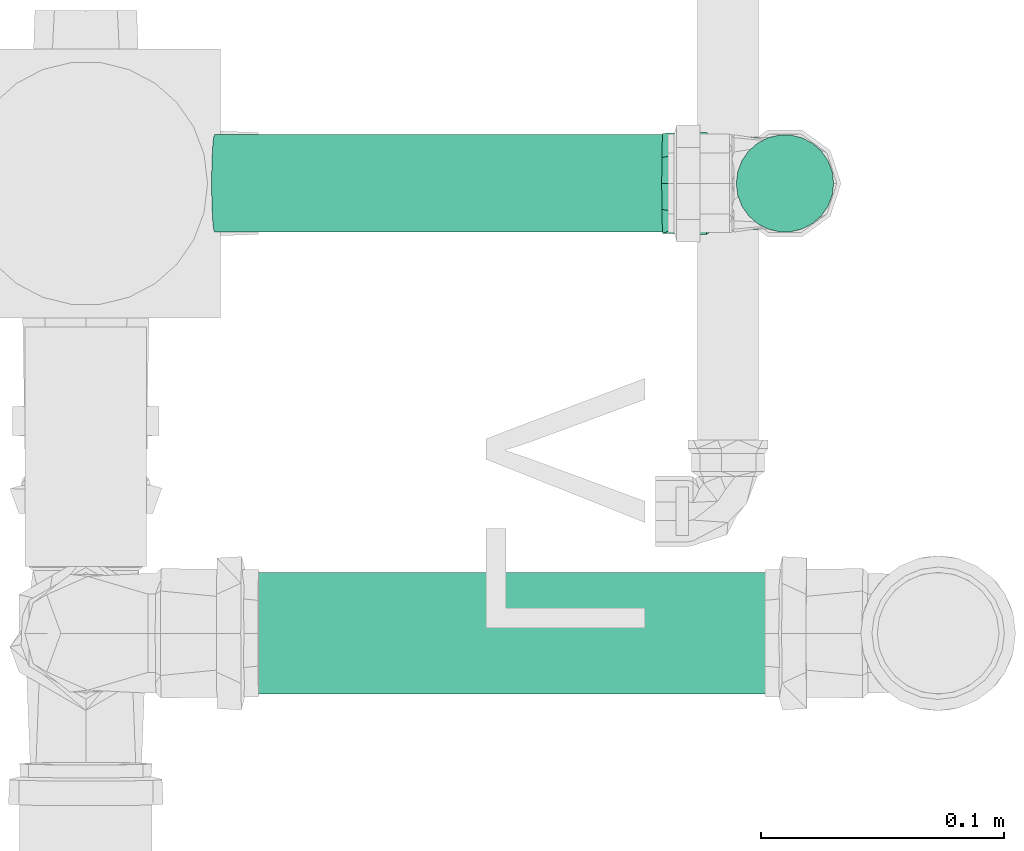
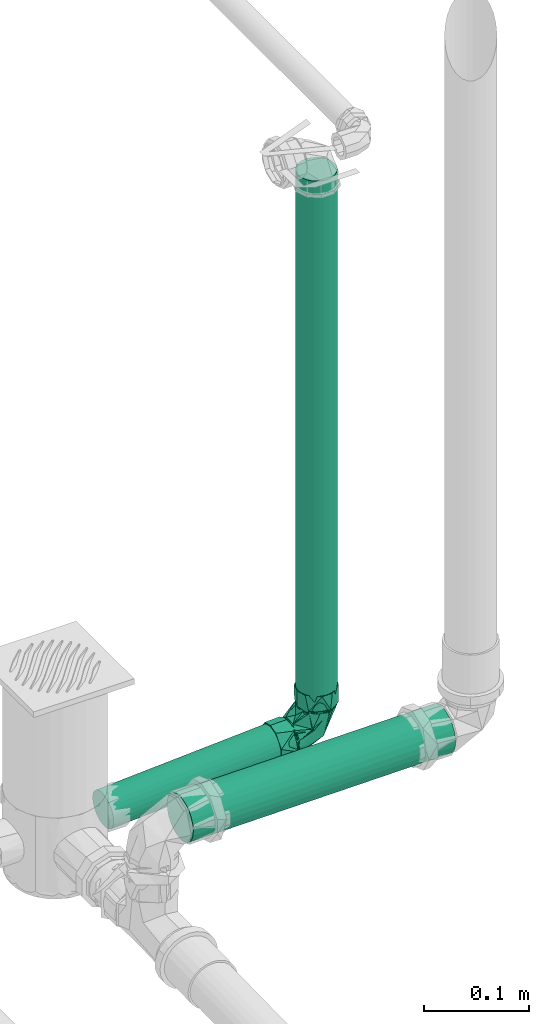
# One storey, part 139 of 589: 3 flow segments, 1 flow fitting.
"""IFC2X3 building model written with IfcOpenShell, lengths in millimetres."""

from ifc_helpers import new_model, entity, si_unit, converted_unit, derived_unit, direction, frame, frame_2d, origin, origin_2d_with_axis, place, context, subcontext, project, spatial, circle, extrude, faceted_brep, source, transform, mapped, material, type_object, type_shapes, element, save


model = new_model("IFC2X3")

# Units and contexts
model_context = context("Model", 3, precision=0.01, world=origin(), true_north=direction((6.123031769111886e-17, 1.0)))
body_context = subcontext(model_context, "Body", "Model", "MODEL_VIEW")
ifc_project = project(units=[si_unit("LENGTHUNIT", "METRE", prefix="MILLI"), si_unit("AREAUNIT", "SQUARE_METRE"), si_unit("VOLUMEUNIT", "CUBIC_METRE"), converted_unit("PLANEANGLEUNIT", "DEGREE", entity("IfcRatioMeasure", 0.017453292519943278), si_unit("PLANEANGLEUNIT", "RADIAN"), dimensions=[0, 0, 0, 0, 0, 0, 0]), si_unit("MASSUNIT", "GRAM", prefix="KILO"), derived_unit("MASSDENSITYUNIT", [(si_unit("MASSUNIT", "GRAM", prefix="KILO"), 1), (si_unit("LENGTHUNIT", "METRE"), -3)]), derived_unit("IONCONCENTRATIONUNIT", [(si_unit("MASSUNIT", "GRAM", prefix="KILO"), 1), (si_unit("LENGTHUNIT", "METRE"), -3)]), derived_unit("MOMENTOFINERTIAUNIT", [(si_unit("LENGTHUNIT", "METRE"), 4)]), si_unit("TIMEUNIT", "SECOND"), si_unit("FREQUENCYUNIT", "HERTZ"), si_unit("THERMODYNAMICTEMPERATUREUNIT", "DEGREE_CELSIUS"), derived_unit("THERMALTRANSMITTANCEUNIT", [(si_unit("MASSUNIT", "GRAM", prefix="KILO"), 1), (si_unit("THERMODYNAMICTEMPERATUREUNIT", "KELVIN"), -1), (si_unit("TIMEUNIT", "SECOND"), -3)]), derived_unit("THERMALCONDUCTANCEUNIT", [(si_unit("MASSUNIT", "GRAM", prefix="KILO"), 1), (si_unit("THERMODYNAMICTEMPERATUREUNIT", "KELVIN"), -1), (si_unit("TIMEUNIT", "SECOND"), -3), (si_unit("LENGTHUNIT", "METRE"), 1)]), derived_unit("VOLUMETRICFLOWRATEUNIT", [(si_unit("LENGTHUNIT", "METRE"), 3), (si_unit("TIMEUNIT", "SECOND"), -1)]), derived_unit("MASSFLOWRATEUNIT", [(si_unit("MASSUNIT", "GRAM", prefix="KILO"), 1), (si_unit("TIMEUNIT", "SECOND"), -1)]), derived_unit("ROTATIONALFREQUENCYUNIT", [(si_unit("TIMEUNIT", "SECOND"), -1)]), si_unit("ELECTRICCURRENTUNIT", "AMPERE"), si_unit("ELECTRICVOLTAGEUNIT", "VOLT"), si_unit("POWERUNIT", "WATT"), si_unit("FORCEUNIT", "NEWTON", prefix="KILO"), si_unit("ILLUMINANCEUNIT", "LUX"), si_unit("LUMINOUSFLUXUNIT", "LUMEN"), si_unit("LUMINOUSINTENSITYUNIT", "CANDELA"), derived_unit("USERDEFINED", [(si_unit("MASSUNIT", "GRAM", prefix="KILO"), -1), (si_unit("LENGTHUNIT", "METRE"), -2), (si_unit("TIMEUNIT", "SECOND"), 3), (si_unit("LUMINOUSFLUXUNIT", "LUMEN"), 1)]), derived_unit("USERDEFINED", [(si_unit("MASSUNIT", "GRAM", prefix="KILO"), 1), (si_unit("TIMEUNIT", "SECOND"), -3), (si_unit("LENGTHUNIT", "METRE"), 3), (si_unit("ELECTRICCURRENTUNIT", "AMPERE"), -2)]), derived_unit("SOUNDPOWERUNIT", [(si_unit("MASSUNIT", "GRAM", prefix="KILO"), 1), (si_unit("TIMEUNIT", "SECOND"), -3), (si_unit("LENGTHUNIT", "METRE"), 2)]), derived_unit("SOUNDPRESSUREUNIT", [(si_unit("MASSUNIT", "GRAM", prefix="KILO"), 1), (si_unit("LENGTHUNIT", "METRE"), -1), (si_unit("TIMEUNIT", "SECOND"), -2)]), derived_unit("LINEARVELOCITYUNIT", [(si_unit("LENGTHUNIT", "METRE"), 1), (si_unit("TIMEUNIT", "SECOND"), -1)]), si_unit("PRESSUREUNIT", "PASCAL"), derived_unit("USERDEFINED", [(si_unit("MASSUNIT", "GRAM", prefix="KILO"), 1), (si_unit("LENGTHUNIT", "METRE"), -2), (si_unit("TIMEUNIT", "SECOND"), -2)]), derived_unit("LINEARFORCEUNIT", [(si_unit("MASSUNIT", "GRAM", prefix="KILO"), 1), (si_unit("TIMEUNIT", "SECOND"), -2)]), derived_unit("PLANARFORCEUNIT", [(si_unit("MASSUNIT", "GRAM", prefix="KILO"), 1), (si_unit("LENGTHUNIT", "METRE"), -1), (si_unit("TIMEUNIT", "SECOND"), -2)]), derived_unit("SPECIFICHEATCAPACITYUNIT", [(si_unit("THERMODYNAMICTEMPERATUREUNIT", "KELVIN"), -1), (si_unit("LENGTHUNIT", "METRE"), 2), (si_unit("TIMEUNIT", "SECOND"), -2)]), derived_unit("HEATINGVALUEUNIT", [(si_unit("LENGTHUNIT", "METRE"), 2), (si_unit("TIMEUNIT", "SECOND"), -2)]), derived_unit("VAPORPERMEABILITYUNIT", [(si_unit("LENGTHUNIT", "METRE"), -1), (si_unit("TIMEUNIT", "SECOND"), 1)]), derived_unit("DYNAMICVISCOSITYUNIT", [(si_unit("MASSUNIT", "GRAM", prefix="KILO"), 1), (si_unit("TIMEUNIT", "SECOND"), -1), (si_unit("LENGTHUNIT", "METRE"), -1)]), derived_unit("THERMALEXPANSIONCOEFFICIENTUNIT", [(si_unit("THERMODYNAMICTEMPERATUREUNIT", "KELVIN"), -1)]), derived_unit("MODULUSOFELASTICITYUNIT", [(si_unit("MASSUNIT", "GRAM", prefix="KILO"), 1), (si_unit("LENGTHUNIT", "METRE"), -1), (si_unit("TIMEUNIT", "SECOND"), -2)]), derived_unit("ISOTHERMALMOISTURECAPACITYUNIT", [(si_unit("LENGTHUNIT", "METRE"), 3), (si_unit("MASSUNIT", "GRAM", prefix="KILO"), -1)]), derived_unit("MOISTUREDIFFUSIVITYUNIT", [(si_unit("TIMEUNIT", "SECOND"), -1), (si_unit("LENGTHUNIT", "METRE"), 2)])], contexts=[model_context])

# Site, building, storey
site_placement = place(None, origin())
site = spatial("IfcSite", under=ifc_project, at=site_placement, Name="Default", CompositionType="ELEMENT")
building_placement = place(site_placement, origin())
building = spatial("IfcBuilding", under=site, at=building_placement, CompositionType="ELEMENT")
storey_placement = place(building_placement, frame((0.0, 0.0, 100.0)))
storey = spatial("IfcBuildingStorey", under=building, at=storey_placement, Name="TÉRREO", CompositionType="ELEMENT", Elevation=100.0)

# Flow segments
pipe_segment_type = type_object("IfcPipeSegmentType", Name="Tipos de tubos:PVC Esgoto Série Normal", PredefinedType="NOTDEFINED")
flow_segment_1_placement = place(storey_placement, origin())
element("IfcFlowSegment", 1, at=flow_segment_1_placement, inside=storey, type_object=pipe_segment_type, Name="Tipos de tubos:PVC Esgoto Série Normal", ObjectType="Tipos de tubos:PVC Esgoto Série Normal", context=body_context, shape_type="SweptSolid", body=[
    extrude(circle(Radius=20.0, at=frame_2d((0.0, -1.68872840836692e-14), x_axis=(1.0, 0.0))), frame((9055.926170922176, -9709.27967735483, -188.50286149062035), z_axis=(0.998078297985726, 0.0, 0.06196540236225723), x_axis=(0.0, 1.0, 0.0)), (0.0, 0.0, 1.0), 202.43059250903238),
])
flow_segment_2_placement = place(storey_placement, origin())
element("IfcFlowSegment", 2, at=flow_segment_2_placement, inside=storey, type_object=pipe_segment_type, Name="Tipos de tubos:PVC Esgoto Série Normal", ObjectType="Tipos de tubos:PVC Esgoto Série Normal", context=body_context, shape_type="SweptSolid", body=[
    extrude(circle(Radius=20.0, at=origin_2d_with_axis()), frame((9290.167312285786, -9709.279677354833, -143.10917777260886)), (0.0, 0.0, 1.0), 616.3091777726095),
])
flow_segment_3_placement = place(storey_placement, origin())
element("IfcFlowSegment", 3, at=flow_segment_3_placement, inside=storey, type_object=pipe_segment_type, Name="Tipos de tubos:PVC Esgoto Série Normal", ObjectType="Tipos de tubos:PVC Esgoto Série Normal", context=body_context, shape_type="SweptSolid", body=[
    extrude(circle(Radius=25.0, at=frame_2d((0.0, -2.5378429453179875e-14), x_axis=(1.0, 0.0))), frame((9033.965923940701, -9894.030796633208, -78.4000544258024), z_axis=(0.9999500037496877, 0.0, 0.009999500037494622), x_axis=(0.0, -1.0, 0.0)), (0.0, 0.0, 1.0), 288.1941173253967),
])

# Flow fitting
ifc_material = material(Name="PVC Branco")
pipe_fitting_type = type_object("IfcPipeFittingType", Name="PVC Esgoto_Curva 90° Curta:a. Série Normal", PredefinedType="NOTDEFINED", material=ifc_material)
shared_shape = source(origin(), body_context, "Body", "Brep", [
    faceted_brep([(17.961036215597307, 31.85321923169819, 10.0), (20.63999240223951, 31.79964010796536, 0.0), (17.961036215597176, 31.853219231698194, -10.0), (5.819337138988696, 32.09605321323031, -19.318516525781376), (-4.531354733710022, 32.30306705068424, -19.31851652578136), (-16.67305381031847, 32.545901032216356, -10.0), (-19.352009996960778, 32.59948015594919, 0.0), (-16.673053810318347, 32.54590103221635, 10.0), (-4.531354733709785, 32.303067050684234, 19.318516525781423), (5.819337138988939, 32.096053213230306, 19.318516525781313), (19.378093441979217, 29.02431814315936, 6.84041311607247), (15.905813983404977, 29.093763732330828, 12.855768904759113), (20.584003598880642, 29.000199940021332, 0.0), (7.427001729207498, 29.263339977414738, 18.793865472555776), (0.5880023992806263, 29.40011996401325, 20.0), (-12.265223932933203, 29.657184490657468, 15.320851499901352), (-18.202100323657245, 29.775922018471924, 6.840381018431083), (-19.407998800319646, 29.800039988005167, 0.0), (-6.251109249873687, 29.536902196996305, 18.79382458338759), (-18.202100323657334, 29.775922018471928, -6.840381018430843), (-14.729853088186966, 29.70647707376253, -12.855716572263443), (-6.25110924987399, 29.53690219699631, -18.79382458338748), (0.588002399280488, 29.40011996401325, -20.0), (13.441163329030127, 29.143056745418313, -15.32090639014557), (19.378093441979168, 29.02431814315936, -6.8404131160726), (7.427001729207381, 29.263339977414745, -18.79386547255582), (-11.35075352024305, -12.626805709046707, 0.0), (-29.405999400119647, -18.793848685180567, 6.8404131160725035), (-29.405999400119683, -19.396924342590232, 3.420206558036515), (-29.405999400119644, -20.0, 0.0), (-29.40599940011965, -15.320874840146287, 12.855768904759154), (-29.405999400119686, -17.057361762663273, 9.848091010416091), (-2.3339581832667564, 2.3811033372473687, 18.02101843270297), (-29.40599940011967, -6.840366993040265, 18.793865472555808), (-29.405999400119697, -11.080620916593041, 15.824817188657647), (-29.405999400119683, 0.0, 20.0), (-29.40599940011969, -3.420183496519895, 19.396932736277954), (-12.878045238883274, 13.138181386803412, 18.95216884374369), (12.851249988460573, 11.095996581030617, 0.0), (5.594072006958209, -5.707072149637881, 0.0), (-29.405999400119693, 6.840479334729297, 18.79382458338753), (-29.405999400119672, 3.4202396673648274, 19.396912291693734), (-29.405999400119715, 18.793860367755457, 6.840381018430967), (-29.405999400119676, 15.824828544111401, 11.080616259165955), (-29.405999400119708, 12.855796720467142, 15.320851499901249), (-22.405985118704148, 22.858585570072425, 0.0), (-29.40599940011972, 20.0, 0.0), (-29.405999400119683, 19.396930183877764, 3.4201905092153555), (-29.405999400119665, 9.848138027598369, 17.0573380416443), (-14.138248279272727, 14.423838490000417, -18.24666465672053), (-29.405999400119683, 0.0, -20.0), (-29.40599940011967, 3.4202396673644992, -19.396912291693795), (-29.405999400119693, 6.840479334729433, -18.79382458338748), (-29.405999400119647, -18.79384868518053, -6.840413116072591), (-29.40599940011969, -15.824789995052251, -11.080659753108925), (-29.405999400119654, -12.85573130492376, -15.32090639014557), (-2.333957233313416, 2.3811024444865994, -18.021017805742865), (-29.405999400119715, 18.793860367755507, -6.840381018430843), (-29.405999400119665, 11.080699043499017, -15.824770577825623), (-29.405999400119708, 15.320918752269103, -12.855716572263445), (-29.405999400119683, -19.396924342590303, -3.420206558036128), (-29.405999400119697, -9.848049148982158, -17.0573859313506), (-29.40599940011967, -6.840366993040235, -18.79386547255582), (-29.40599940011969, -3.420183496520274, -19.396932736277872), (-29.405999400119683, 19.39693018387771, -3.4201905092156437), (-29.405999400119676, 17.05738956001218, -9.848048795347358), (-30.20599940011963, -8.21241269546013, -16.988887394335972), (-30.20599940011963, -11.248444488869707, -14.659258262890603), (-30.20599940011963, -14.28447628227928, -12.329629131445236), (-30.20599940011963, -17.320508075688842, -10.0), (-30.20599940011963, -18.66025403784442, -5.0), (-30.20599940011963, -20.0, 0.0), (-30.20599940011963, -18.660254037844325, 5.0), (-30.20599940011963, -17.320508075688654, 10.0), (-30.20599940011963, -14.284476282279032, 12.329629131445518), (-30.20599940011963, -11.248444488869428, 14.659258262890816), (-30.20599940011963, -8.21241269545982, 16.988887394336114), (-30.20599940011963, -5.1763809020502, 19.318516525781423), (-30.20599940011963, 0.0, 19.31851652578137), (-30.20599940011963, 5.176380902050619, 19.318516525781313), (-30.20599940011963, 8.21241269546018, 16.98888739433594), (-30.20599940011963, 11.248444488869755, 14.65925826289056), (-30.205999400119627, 14.284476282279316, 12.329629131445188), (-30.20599940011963, 17.320508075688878, 10.0), (-30.20599940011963, 18.66025403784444, 5.0), (-30.20599940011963, 20.0, 0.0), (-30.20599940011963, 18.66025403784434, -5.0), (-30.20599940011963, 17.32050807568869, -10.0), (-30.20599940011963, 14.284476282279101, -12.329629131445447), (-30.20599940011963, 11.24844448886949, -14.659258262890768), (-30.20599940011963, 8.212412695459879, -16.988887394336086), (-30.20599940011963, 5.1763809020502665, -19.318516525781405), (-30.20599940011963, 0.0, -19.318516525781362), (-30.20599940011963, -5.176380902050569, -19.318516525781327)], [[[0, 1, 2, 3, 4, 5, 6, 7, 8, 9]], [[10, 1, 0]], [[11, 0, 9]], [[12, 1, 10]], [[11, 10, 0]], [[13, 11, 9]], [[9, 14, 13]], [[15, 8, 7]], [[7, 6, 16]], [[17, 16, 6]], [[14, 8, 18]], [[15, 18, 8]], [[16, 15, 7]], [[8, 14, 9]], [[19, 6, 5]], [[20, 5, 4]], [[17, 6, 19]], [[20, 19, 5]], [[21, 20, 4]], [[4, 22, 21]], [[23, 3, 2]], [[2, 1, 24]], [[12, 24, 1]], [[22, 3, 25]], [[23, 25, 3]], [[24, 23, 2]], [[3, 22, 4]], [[26, 27, 28, 29]], [[26, 30, 31, 27]], [[32, 33, 34, 30]], [[32, 35, 36, 33]], [[35, 32, 37]], [[11, 38, 10]], [[26, 32, 30]], [[32, 39, 38]], [[37, 40, 41, 35]], [[37, 42, 43, 44]], [[45, 46, 47, 42]], [[16, 45, 42]], [[37, 44, 48, 40]], [[39, 32, 26]], [[14, 18, 37]], [[32, 11, 13]], [[14, 37, 32]], [[32, 38, 11]], [[12, 10, 38]], [[45, 16, 17]], [[37, 15, 16]], [[37, 16, 42]], [[15, 37, 18]], [[32, 13, 14]], [[49, 50, 51, 52]], [[49, 21, 22]], [[26, 53, 54, 55]], [[56, 39, 26]], [[49, 57, 19]], [[49, 52, 58, 59]], [[56, 50, 49]], [[26, 29, 60, 53]], [[56, 55, 61, 62]], [[56, 62, 63, 50]], [[26, 55, 56]], [[45, 57, 64, 46]], [[45, 17, 19]], [[24, 12, 38]], [[23, 56, 25]], [[49, 20, 21]], [[49, 19, 20]], [[56, 49, 22]], [[56, 23, 38]], [[49, 59, 65, 57]], [[38, 39, 56]], [[24, 38, 23]], [[56, 22, 25]], [[19, 57, 45]], [[66, 67, 68, 69, 70, 71, 72, 73, 74, 75, 76, 77, 78, 79, 80, 81, 82, 83, 84, 85, 86, 87, 88, 89, 90, 91, 92, 93]], [[47, 46, 85]], [[33, 77, 76]], [[80, 40, 48]], [[48, 44, 81]], [[33, 76, 34]], [[81, 80, 48]], [[84, 83, 42]], [[82, 81, 44]], [[73, 72, 27]], [[85, 84, 47]], [[78, 41, 79]], [[77, 36, 78]], [[30, 75, 74, 73]], [[73, 27, 31, 30]], [[77, 33, 36]], [[71, 28, 72]], [[44, 43, 82]], [[36, 35, 78]], [[41, 40, 79]], [[34, 76, 75]], [[43, 42, 83]], [[75, 30, 34]], [[41, 78, 35]], [[84, 42, 47]], [[80, 79, 40]], [[43, 83, 82]], [[28, 71, 29]], [[28, 27, 72]], [[60, 29, 71]], [[52, 91, 90]], [[66, 62, 61]], [[61, 55, 67]], [[52, 90, 58]], [[67, 66, 61]], [[70, 69, 53]], [[68, 67, 55]], [[87, 86, 57]], [[71, 70, 60]], [[92, 63, 93]], [[91, 51, 92]], [[59, 89, 88, 87]], [[87, 57, 65, 59]], [[91, 52, 51]], [[85, 64, 86]], [[55, 54, 68]], [[51, 50, 92]], [[63, 62, 93]], [[90, 89, 58]], [[54, 53, 69]], [[89, 59, 58]], [[63, 92, 50]], [[70, 53, 60]], [[66, 93, 62]], [[54, 69, 68]], [[64, 85, 46]], [[64, 57, 86]]]),
    faceted_brep([(-32.20599940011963, -17.320508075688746, -10.0), (-32.20599940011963, -20.0, 0.0), (-32.20599940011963, -17.320508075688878, 10.0), (-32.20599940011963, -5.176380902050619, 19.318516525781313), (-32.20599940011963, 5.1763809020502, 19.318516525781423), (-32.20599940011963, 17.320508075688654, 10.0), (-32.20599940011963, 20.0, 0.0), (-32.20599940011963, 17.320508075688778, -10.0), (-32.20599940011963, 5.17638090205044, -19.31851652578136), (-32.20599940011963, -5.176380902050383, -19.318516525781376), (-29.40599940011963, -20.0, 0.0), (-29.40599940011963, -15.320920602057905, 12.855714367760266), (-29.40599940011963, 3.4728419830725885, 19.696176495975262), (-29.40599940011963, 15.320777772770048, 12.855884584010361), (-29.40599940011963, 20.0, 0.0), (-29.40599940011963, 15.320777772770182, -12.855884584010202), (-29.405999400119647, 5.923858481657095, -16.27601124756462), (-29.40599940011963, -3.473060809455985, -19.69613791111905), (-29.40599940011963, -15.320920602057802, -12.855714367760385), (12.85124998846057, 11.095996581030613, 0.0), (19.378093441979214, 29.024318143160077, 6.8404131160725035), (16.409628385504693, 29.083687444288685, 11.080659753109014), (13.441163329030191, 29.143056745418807, 15.320906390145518), (5.594072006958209, -5.707072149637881, 0.0), (-3.0189256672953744, 1.4413580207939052, 17.919138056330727), (-11.350753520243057, -12.626805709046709, 0.0), (-13.807968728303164, 12.593198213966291, 18.87014454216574), (-6.251109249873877, 29.53690219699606, 18.793824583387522), (-10.490481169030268, 29.621689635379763, 15.824770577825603), (-14.729853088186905, 29.70647707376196, 12.855716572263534), (-22.405985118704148, 22.858585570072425, 0.0), (-18.20210032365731, 29.775922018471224, 6.84038101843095), (-18.805049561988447, 29.787981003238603, 3.4201905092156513), (-19.407998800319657, 29.80003998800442, 0.0), (7.427001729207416, 29.26333997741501, 18.793865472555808), (4.007502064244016, 29.331729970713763, 19.396932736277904), (0.5880023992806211, 29.400119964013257, 20.0), (10.434082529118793, 29.203198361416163, 17.057385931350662), (20.58400359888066, 29.000199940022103, 0.0), (19.981048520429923, 29.012259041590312, 3.420206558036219), (-2.8315534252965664, 29.46851108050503, 19.396912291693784), (-16.465976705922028, 29.74119954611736, 9.84804879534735), (-12.878069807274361, 13.13814230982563, -18.95217245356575), (-12.265223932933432, 29.657184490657, -15.32085149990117), (-9.258166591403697, 29.59704334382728, -17.057338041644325), (-6.251109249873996, 29.53690219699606, -18.79382458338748), (-18.202100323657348, 29.775922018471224, -6.840381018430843), (-2.142006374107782, 2.6554433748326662, -18.049846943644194), (-18.80504956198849, 29.787981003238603, -3.4201905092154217), (-15.233662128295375, 29.716553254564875, -11.080616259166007), (19.378093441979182, 29.02431814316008, -6.840413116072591), (19.981048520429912, 29.012259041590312, -3.4202065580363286), (0.5880023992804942, 29.400119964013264, -20.0), (4.0075020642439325, 29.331729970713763, -19.396932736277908), (7.427001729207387, 29.26333997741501, -18.79386547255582), (11.666407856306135, 29.178551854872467, -15.824817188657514), (15.905813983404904, 29.09376373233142, -12.855768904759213), (17.64195371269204, 29.05904093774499, -9.8480910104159), (-2.831553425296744, 29.46851108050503, -19.39691229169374), (-4.571346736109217, 30.303466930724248, -19.31851652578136), (-7.60677150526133, 30.364175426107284, -16.988887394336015), (-10.64219627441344, 30.424883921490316, -14.659258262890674), (-13.677621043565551, 30.48559241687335, -12.329629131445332), (-16.713045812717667, 30.54630091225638, -10.0), (-18.052523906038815, 30.573090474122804, -5.0), (-19.392001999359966, 30.599880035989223, 0.0), (-18.052523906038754, 30.573090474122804, 5.0), (-16.71304581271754, 30.54630091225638, 10.0), (-13.67762104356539, 30.48559241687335, 12.329629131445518), (-10.642196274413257, 30.424883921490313, 14.659258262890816), (-7.606771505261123, 30.364175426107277, 16.988887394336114), (-4.571346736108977, 30.303466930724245, 19.318516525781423), (0.6039992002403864, 30.199960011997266, 19.31851652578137), (5.779345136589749, 30.096453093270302, 19.318516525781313), (8.814769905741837, 30.035744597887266, 16.98888739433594), (11.85019467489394, 29.975036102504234, 14.65925826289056), (14.885619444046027, 29.9143276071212, 12.329629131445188), (17.92104421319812, 29.853619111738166, 10.0), (19.26052230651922, 29.82682954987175, 5.0), (20.60000039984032, 29.80003998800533, 0.0), (19.260522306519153, 29.82682954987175, -5.0), (17.921044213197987, 29.85361911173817, -10.0), (14.885619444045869, 29.914327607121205, -12.329629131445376), (11.850194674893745, 29.975036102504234, -14.659258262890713), (8.814769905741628, 30.03574459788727, -16.988887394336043), (5.779345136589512, 30.096453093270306, -19.318516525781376), (0.6039992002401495, 30.199960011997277, -19.31851652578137)], [[[0, 1, 2, 3, 4, 5, 6, 7, 8, 9]], [[10, 11, 2]], [[10, 2, 1]], [[2, 11, 3]], [[11, 12, 3]], [[4, 12, 13]], [[5, 13, 14]], [[13, 5, 4]], [[5, 14, 6]], [[12, 4, 3]], [[14, 15, 7]], [[14, 7, 6]], [[7, 15, 8]], [[8, 15, 16, 17]], [[9, 17, 18]], [[0, 18, 10]], [[18, 0, 9]], [[0, 10, 1]], [[17, 9, 8]], [[19, 20, 21, 22]], [[23, 24, 25]], [[26, 13, 12]], [[25, 24, 11]], [[24, 23, 19]], [[26, 27, 28, 29]], [[14, 13, 30]], [[11, 10, 25]], [[30, 31, 32, 33]], [[31, 30, 13]], [[24, 34, 35, 36]], [[24, 26, 12]], [[24, 22, 37, 34]], [[11, 24, 12]], [[19, 38, 39, 20]], [[26, 36, 40, 27]], [[13, 29, 41, 31]], [[13, 26, 29]], [[36, 26, 24]], [[22, 24, 19]], [[15, 14, 30]], [[42, 43, 44, 45]], [[15, 30, 46]], [[16, 15, 42, 17]], [[47, 25, 18]], [[47, 18, 17]], [[42, 15, 46]], [[30, 33, 48, 46]], [[42, 46, 49, 43]], [[19, 50, 51, 38]], [[47, 52, 53, 54]], [[47, 54, 55, 56]], [[42, 52, 47]], [[19, 56, 57, 50]], [[25, 47, 23]], [[19, 23, 47]], [[25, 10, 18]], [[19, 47, 56]], [[17, 42, 47]], [[42, 45, 58, 52]], [[59, 60, 61, 62, 63, 64, 65, 66, 67, 68, 69, 70, 71, 72, 73, 74, 75, 76, 77, 78, 79, 80, 81, 82, 83, 84, 85, 86]], [[39, 38, 79]], [[21, 77, 76]], [[74, 34, 37]], [[37, 22, 75]], [[79, 78, 39]], [[75, 74, 37]], [[74, 73, 34]], [[76, 75, 22]], [[22, 21, 76]], [[78, 77, 20]], [[72, 35, 73]], [[27, 70, 28]], [[29, 69, 68, 67]], [[67, 31, 41, 29]], [[71, 27, 40]], [[65, 32, 66]], [[71, 40, 72]], [[40, 36, 72]], [[67, 66, 31]], [[28, 70, 69]], [[35, 34, 73]], [[69, 29, 28]], [[35, 72, 36]], [[78, 20, 39]], [[21, 20, 77]], [[27, 71, 70]], [[32, 65, 33]], [[32, 31, 66]], [[48, 33, 65]], [[54, 85, 84]], [[60, 45, 44]], [[44, 43, 61]], [[54, 84, 55]], [[61, 60, 44]], [[64, 63, 46]], [[62, 61, 43]], [[81, 80, 50]], [[65, 64, 48]], [[86, 58, 59]], [[85, 53, 86]], [[56, 83, 82, 81]], [[81, 50, 57, 56]], [[85, 54, 53]], [[79, 51, 80]], [[43, 49, 62]], [[53, 52, 86]], [[58, 45, 59]], [[55, 84, 83]], [[49, 46, 63]], [[83, 56, 55]], [[58, 86, 52]], [[64, 46, 48]], [[60, 59, 45]], [[49, 63, 62]], [[51, 79, 38]], [[51, 50, 80]]]),
    faceted_brep([(5.819337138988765, 32.09605321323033, 19.31851652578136), (17.961036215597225, 31.853219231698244, 10.0), (20.63999240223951, 31.799640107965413, 0.0), (17.96103621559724, 31.853219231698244, -10.0), (5.8193371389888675, 32.09605321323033, -19.318516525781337), (-4.531354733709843, 32.30306705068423, -19.31851652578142), (-16.67305381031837, 32.54590103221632, -10.0), (-19.352009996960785, 32.59948015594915, 0.0), (-16.673053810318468, 32.54590103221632, 10.0), (-4.531354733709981, 32.303067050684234, 19.318516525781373), (-4.571346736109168, 30.303466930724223, 19.318516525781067), (-16.713045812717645, 30.54630091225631, 10.0), (-19.39200199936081, 30.599880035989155, 0.0), (-16.713045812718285, 30.546300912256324, -10.0), (-4.571346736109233, 30.303466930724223, -19.318516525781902), (5.779345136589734, 30.096453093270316, -19.31851652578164), (17.92104421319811, 29.853619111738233, -10.0), (20.60000039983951, 29.800039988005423, 0.0), (17.92104421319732, 29.853619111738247, 10.0), (5.779345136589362, 30.096453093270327, 19.31851652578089), (16.960145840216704, 31.873237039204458, -13.688192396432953), (21.93973248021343, 31.77364530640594, 0.0), (4.344880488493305, 32.12554234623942, -20.97588948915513), (-20.651750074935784, 32.625474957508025, 0.0), (-15.668729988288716, 32.52581455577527, -13.692285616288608), (-5.661924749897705, 32.32567845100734, -17.33408755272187), (-15.668729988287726, 32.52581455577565, 13.69228561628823), (-3.0516373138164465, 32.27347270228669, 20.976817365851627), (16.960145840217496, 31.87323703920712, 13.688192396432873), (6.954254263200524, 32.073354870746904, 17.332504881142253), (-4.507824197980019, 50.30619608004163, -20.574220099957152), (-4.171426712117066, 50.29946813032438, -19.318516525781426), (6.1792651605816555, 50.09245429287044, -19.318516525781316), (-17.438733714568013, 50.56481427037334, -10.649999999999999), (6.515662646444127, 50.0857263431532, -20.57422009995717), (-16.31312578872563, 50.54230211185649, -10.0), (-18.99208197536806, 50.59588123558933, 0.0), (-20.29182205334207, 50.62187603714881, 0.0), (-16.313125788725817, 50.54230211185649, 10.0), (-17.438733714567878, 50.56481427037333, 10.650000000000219), (-4.1714267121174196, 50.29946813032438, 19.318516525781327), (-4.5078241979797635, 50.30619608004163, 20.574220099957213), (6.179265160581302, 50.09245429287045, 19.3185165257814), (6.515662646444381, 50.08572634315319, 20.574220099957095), (18.320964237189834, 49.84962031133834, 10.0), (19.446572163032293, 49.827108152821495, 10.649999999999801), (22.299660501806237, 49.770046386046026, 0.0), (20.99992042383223, 49.796041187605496, 0.0), (19.44657216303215, 49.8271081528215, -10.650000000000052), (18.320964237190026, 49.84962031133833, -10.0)], [[[0, 1, 2, 3, 4, 5, 6, 7, 8, 9]], [[10, 11, 12, 13, 14, 15, 16, 17, 18, 19]], [[16, 15, 20]], [[17, 16, 21]], [[21, 16, 20]], [[15, 22, 20]], [[23, 13, 12]], [[24, 14, 13]], [[15, 14, 22]], [[23, 24, 13]], [[25, 22, 14, 24]], [[11, 10, 26]], [[12, 11, 23]], [[23, 11, 26]], [[10, 27, 26]], [[21, 18, 17]], [[28, 19, 18]], [[10, 19, 27]], [[21, 28, 18]], [[29, 27, 19, 28]], [[30, 31, 32]], [[31, 30, 33]], [[32, 34, 30]], [[33, 35, 31]], [[33, 36, 35]], [[36, 33, 37]], [[38, 36, 37]], [[38, 37, 39]], [[39, 40, 38]], [[39, 41, 40]], [[40, 41, 42]], [[43, 42, 41]], [[43, 44, 42]], [[44, 43, 45]], [[46, 44, 45]], [[47, 44, 46]], [[48, 47, 46]], [[48, 49, 47]], [[49, 48, 34]], [[34, 32, 49]], [[46, 45, 21]], [[45, 28, 21]], [[28, 45, 43]], [[43, 27, 29, 28]], [[26, 41, 39]], [[23, 39, 37]], [[41, 26, 27]], [[26, 39, 23]], [[41, 27, 43]], [[37, 33, 23]], [[33, 24, 23]], [[24, 33, 30]], [[30, 22, 25, 24]], [[20, 34, 48]], [[21, 48, 46]], [[34, 20, 22]], [[20, 48, 21]], [[34, 22, 30]], [[3, 2, 47, 49]], [[4, 3, 49, 32]], [[32, 31, 5, 4]], [[6, 5, 31, 35]], [[7, 6, 35, 36]], [[8, 7, 36, 38]], [[9, 8, 38, 40]], [[40, 42, 0, 9]], [[1, 0, 42, 44]], [[2, 1, 44, 47]]]),
    faceted_brep([(-50.20599940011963, -5.512845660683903, -20.574220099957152), (-50.20599940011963, -5.176380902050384, -19.318516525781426), (-50.20599940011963, 5.176380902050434, -19.318516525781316), (-50.20599940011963, -18.446341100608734, -10.649999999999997), (-50.20599940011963, 5.512845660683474, -20.57422009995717), (-50.20599940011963, -17.320508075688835, -10.0), (-50.20599940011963, -20.0, 0.0), (-50.20599940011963, -21.300000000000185, 0.0), (-50.20599940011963, -17.320508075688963, 10.0), (-50.20599940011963, -18.4463411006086, 10.650000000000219), (-50.20599940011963, -5.176380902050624, 19.318516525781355), (-50.20599940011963, -5.512845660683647, 20.574220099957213), (-50.20599940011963, 5.176380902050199, 19.318516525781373), (-50.20599940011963, 5.512845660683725, 20.574220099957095), (-50.20599940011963, 17.320508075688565, 10.0), (-50.20599940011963, 18.44634110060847, 10.649999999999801), (-50.20599940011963, 21.299999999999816, 0.0), (-50.20599940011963, 20.0, 0.0), (-50.20599940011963, 18.446341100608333, -10.650000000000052), (-50.20599940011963, 17.320508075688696, -10.0), (-32.20599940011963, 21.299999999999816, 0.0), (-32.205999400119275, 16.319417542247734, 13.688192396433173), (-32.205999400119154, 3.701629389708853, 20.975889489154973), (-32.20599940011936, -16.315983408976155, 13.692285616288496), (-32.20599940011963, -21.300000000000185, 0.0), (-32.20599940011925, -6.307177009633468, 17.334087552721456), (-32.20599940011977, -16.31598340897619, -13.692285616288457), (-32.20599940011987, -3.6963675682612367, -20.976817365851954), (-32.2059994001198, 16.319417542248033, -13.688192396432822), (-32.20599940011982, 6.311524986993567, -17.332504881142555), (-32.20599940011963, -5.176380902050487, 19.31851652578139), (-32.20599940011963, 5.176380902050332, 19.318516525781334), (-32.20599940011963, 17.320508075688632, 10.0), (-32.20599940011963, 20.0, 0.0), (-32.20599940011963, 17.320508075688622, -10.0), (-32.20599940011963, 5.176380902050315, -19.318516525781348), (-32.20599940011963, -5.1763809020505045, -19.318516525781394), (-32.20599940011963, -17.3205080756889, -10.0), (-32.20599940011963, -20.0, 0.0), (-32.20599940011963, -17.32050807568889, 10.0), (-30.20599940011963, -5.176380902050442, 19.31851652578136), (-30.20599940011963, -17.320508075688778, 10.0), (-30.20599940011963, -20.0, 0.0), (-30.20599940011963, -17.320508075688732, -10.0), (-30.20599940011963, -5.176380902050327, -19.318516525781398), (-30.20599940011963, 5.176380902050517, -19.318516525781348), (-30.20599940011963, 17.320508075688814, -10.0), (-30.20599940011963, 20.0, 0.0), (-30.20599940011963, 17.320508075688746, 10.0), (-30.20599940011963, 5.176380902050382, 19.318516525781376)], [[[0, 1, 2]], [[1, 0, 3]], [[2, 4, 0]], [[3, 5, 1]], [[3, 6, 5]], [[6, 3, 7]], [[8, 6, 7]], [[8, 7, 9]], [[9, 10, 8]], [[9, 11, 10]], [[10, 11, 12]], [[13, 12, 11]], [[13, 14, 12]], [[14, 13, 15]], [[16, 14, 15]], [[17, 14, 16]], [[18, 17, 16]], [[18, 19, 17]], [[19, 18, 4]], [[4, 2, 19]], [[16, 15, 20]], [[15, 21, 20]], [[21, 15, 13]], [[21, 13, 22]], [[23, 11, 9]], [[24, 9, 7]], [[11, 23, 25, 22]], [[23, 9, 24]], [[11, 22, 13]], [[7, 3, 24]], [[3, 26, 24]], [[26, 3, 0]], [[26, 0, 27]], [[28, 4, 18]], [[20, 18, 16]], [[4, 28, 29, 27]], [[28, 18, 20]], [[4, 27, 0]], [[30, 31, 32, 33, 34, 35, 36, 37, 38, 39]], [[40, 41, 42, 43, 44, 45, 46, 47, 48, 49]], [[45, 28, 46]], [[47, 46, 20]], [[20, 46, 28]], [[27, 45, 44]], [[26, 44, 43]], [[24, 43, 42]], [[45, 27, 29, 28]], [[26, 27, 44]], [[24, 26, 43]], [[40, 23, 41]], [[42, 41, 24]], [[24, 41, 23]], [[22, 40, 49]], [[21, 49, 48]], [[20, 48, 47]], [[40, 22, 25, 23]], [[21, 22, 49]], [[20, 21, 48]], [[34, 33, 17, 19]], [[35, 34, 19, 2]], [[2, 1, 36, 35]], [[37, 36, 1, 5]], [[38, 37, 5, 6]], [[39, 38, 6, 8]], [[30, 39, 8, 10]], [[10, 12, 31, 30]], [[32, 31, 12, 14]], [[33, 32, 14, 17]]]),
])
type_shapes(pipe_fitting_type, [shared_shape])
flow_fitting_placement = place(storey_placement, frame((9290.167312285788, -9709.27967735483, -175.31517717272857), z_axis=(0.0, 1.0, 0.0), x_axis=(0.0, 0.0, -1.0)))
element("IfcFlowFitting", 4, at=flow_fitting_placement, inside=storey, type_object=pipe_fitting_type, material=ifc_material, Name="PVC Esgoto_Curva 90° Curta:a. Série Normal", ObjectType="PVC Esgoto_Curva 90° Curta:a. Série Normal", context=body_context, shape_type="MappedRepresentation", body=[
    mapped(shared_shape, transform((0.0, 0.0, 0.0), scale=1.0)),
])

save(model, "model.ifc")
